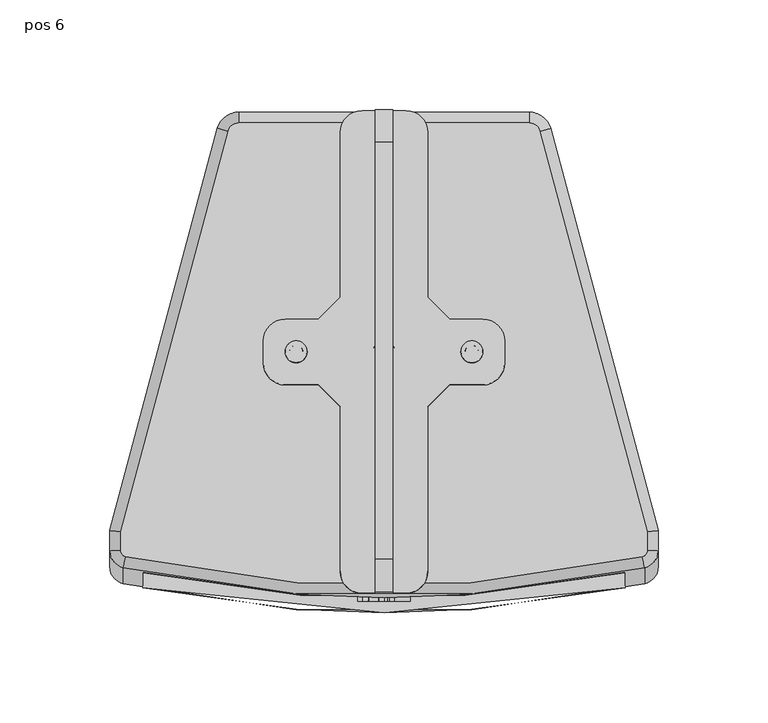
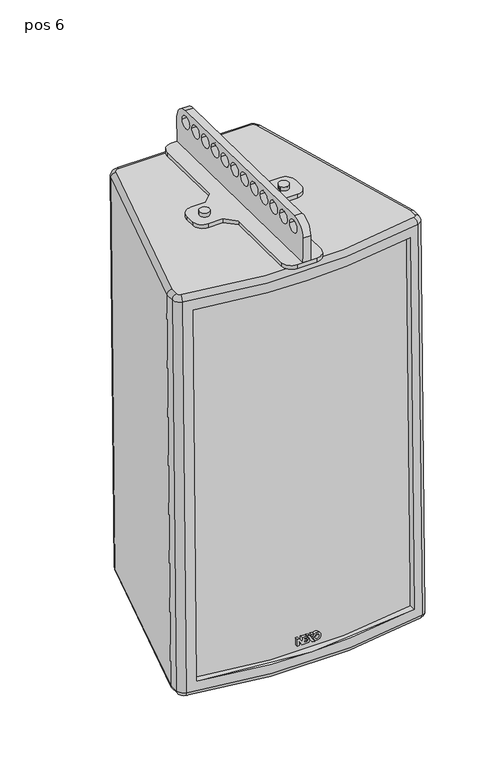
"""IFC4 building model written with IfcOpenShell, lengths in millimetres: proxy geometry, ePS8-WM280-BUMP-WVM : pos 6."""

from ifc_helpers import new_model, si_unit, point, frame, frame_2d, origin, place, context, project, spatial, polyline, circle_curve, ellipse_curve, trimmed, segment, composite_curve, outline, extrude, source, transform, mapped, element, save
from ifc_brep_helpers import plane_surface, cylinder_surface, revolved_surface, advanced_brep


def pos_6_c2b1cb6c(model_context):
    return source(origin(), model_context, "Body", "SolidModel", [
        extrude(outline(composite_curve([segment(trimmed(circle_curve(frame_2d((0.0, -5.0)), 5.0), [point((0.0, -10.0))], [point((0.0, 0.0))], False, "CARTESIAN"), True, "CONTINUOUS"), segment(trimmed(circle_curve(frame_2d((0.0, -5.0)), 5.0), [point((0.0, 0.0))], [point((0.0, -10.0))], False, "CARTESIAN"), True, "CONTINUOUS")], self_intersect=False)), frame((-35.0511607, -271.4814193, -98.0995849), z_axis=(0.0, 0.017452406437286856, 0.9998476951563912), x_axis=(0.0, -0.9998476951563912, 0.017452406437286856)), (0.0, 0.0, 1.0), 4.0),
        extrude(outline(composite_curve([segment(trimmed(circle_curve(frame_2d((0.0, 75.1023214)), 5.0), [point((0.0, 80.1023214))], [point((0.0, 70.1023214))], False, "CARTESIAN"), True, "CONTINUOUS"), segment(trimmed(circle_curve(frame_2d((0.0, 75.1023214)), 5.0), [point((0.0, 70.1023214))], [point((0.0, 80.1023214))], False, "CARTESIAN"), True, "CONTINUOUS")], self_intersect=False)), frame((-35.0511607, -271.4814193, -98.0995849), z_axis=(0.0, 0.017452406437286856, 0.9998476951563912), x_axis=(0.0, -0.9998476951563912, 0.017452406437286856)), (0.0, 0.0, 1.0), 4.0),
        extrude(outline(composite_curve([segment(trimmed(circle_curve(frame_2d((-176.0421257, -73.7615234)), 15.0), [point((-175.7803396, -58.763808))], [point((-161.0444103, -74.0233095))], False, "CARTESIAN"), True, "CONTINUOUS"), segment(polyline([(-161.0444103, -74.0233095), (-161.4981729, -100.0193496), (-381.4646658, -96.1798202), (-381.0109032, -70.1837801)]), True, "CONTINUOUS"), segment(trimmed(circle_curve(frame_2d((-366.0131878, -70.4455662)), 15.0), [point((-381.0109032, -70.1837801))], [point((-365.7514017, -55.4478508))], False, "CARTESIAN"), True, "CONTINUOUS"), segment(polyline([(-365.7514017, -55.4478508), (-175.7803396, -58.763808)]), True, "CONTINUOUS")], self_intersect=False), holes=[composite_curve([segment(trimmed(circle_curve(frame_2d((-279.0, -68.9639301)), 6.5), [point((-285.49901, -68.8504894))], [point((-272.50099, -69.0773707))], True, "CARTESIAN"), True, "CONTINUOUS"), segment(trimmed(circle_curve(frame_2d((-279.0, -68.9639301)), 6.5), [point((-272.50099, -69.0773707))], [point((-285.49901, -68.8504894))], True, "CARTESIAN"), True, "CONTINUOUS")], self_intersect=False), composite_curve([segment(trimmed(circle_curve(frame_2d((-296.0755239, -68.6658757)), 6.5), [point((-302.5745339, -68.552435))], [point((-289.5765139, -68.7793163))], True, "CARTESIAN"), True, "CONTINUOUS"), segment(trimmed(circle_curve(frame_2d((-296.0755239, -68.6658757)), 6.5), [point((-289.5765139, -68.7793163))], [point((-302.5745339, -68.552435))], True, "CARTESIAN"), True, "CONTINUOUS")], self_intersect=False), composite_curve([segment(trimmed(circle_curve(frame_2d((-313.1510478, -68.3678213)), 6.5), [point((-319.6500579, -68.2543807))], [point((-306.6520378, -68.4812619))], True, "CARTESIAN"), True, "CONTINUOUS"), segment(trimmed(circle_curve(frame_2d((-313.1510478, -68.3678213)), 6.5), [point((-306.6520378, -68.4812619))], [point((-319.6500579, -68.2543807))], True, "CARTESIAN"), True, "CONTINUOUS")], self_intersect=False), composite_curve([segment(trimmed(circle_curve(frame_2d((-330.2265718, -68.0697669)), 6.5), [point((-336.7255818, -67.9563263))], [point((-323.7275617, -68.1832076))], True, "CARTESIAN"), True, "CONTINUOUS"), segment(trimmed(circle_curve(frame_2d((-330.2265718, -68.0697669)), 6.5), [point((-323.7275617, -68.1832076))], [point((-336.7255818, -67.9563263))], True, "CARTESIAN"), True, "CONTINUOUS")], self_intersect=False), composite_curve([segment(trimmed(circle_curve(frame_2d((-347.3020957, -67.7717125)), 6.5), [point((-353.8011057, -67.6582719))], [point((-340.8030857, -67.8851532))], True, "CARTESIAN"), True, "CONTINUOUS"), segment(trimmed(circle_curve(frame_2d((-347.3020957, -67.7717125)), 6.5), [point((-340.8030857, -67.8851532))], [point((-353.8011057, -67.6582719))], True, "CARTESIAN"), True, "CONTINUOUS")], self_intersect=False), composite_curve([segment(trimmed(circle_curve(frame_2d((-364.3776196, -67.4736582)), 6.5), [point((-370.8766296, -67.3602175))], [point((-357.8786096, -67.5870988))], True, "CARTESIAN"), True, "CONTINUOUS"), segment(trimmed(circle_curve(frame_2d((-364.3776196, -67.4736582)), 6.5), [point((-357.8786096, -67.5870988))], [point((-370.8766296, -67.3602175))], True, "CARTESIAN"), True, "CONTINUOUS")], self_intersect=False), composite_curve([segment(trimmed(circle_curve(frame_2d((-261.893847, -69.2625191)), 6.5), [point((-255.394837, -69.3759597))], [point((-268.392857, -69.1490784))], True, "CARTESIAN"), True, "CONTINUOUS"), segment(trimmed(circle_curve(frame_2d((-261.893847, -69.2625191)), 6.5), [point((-268.392857, -69.1490784))], [point((-255.394837, -69.3759597))], True, "CARTESIAN"), True, "CONTINUOUS")], self_intersect=False), composite_curve([segment(trimmed(circle_curve(frame_2d((-244.8183231, -69.5605735)), 6.5), [point((-238.3193131, -69.6740141))], [point((-251.3173331, -69.4471328))], True, "CARTESIAN"), True, "CONTINUOUS"), segment(trimmed(circle_curve(frame_2d((-244.8183231, -69.5605735)), 6.5), [point((-251.3173331, -69.4471328))], [point((-238.3193131, -69.6740141))], True, "CARTESIAN"), True, "CONTINUOUS")], self_intersect=False), composite_curve([segment(trimmed(circle_curve(frame_2d((-227.7427992, -69.8586278)), 6.5), [point((-221.2437892, -69.9720685))], [point((-234.2418092, -69.7451872))], True, "CARTESIAN"), True, "CONTINUOUS"), segment(trimmed(circle_curve(frame_2d((-227.7427992, -69.8586278)), 6.5), [point((-234.2418092, -69.7451872))], [point((-221.2437892, -69.9720685))], True, "CARTESIAN"), True, "CONTINUOUS")], self_intersect=False), composite_curve([segment(trimmed(circle_curve(frame_2d((-210.6672753, -70.1566822)), 6.5), [point((-204.1682652, -70.2701228))], [point((-217.1662853, -70.0432416))], True, "CARTESIAN"), True, "CONTINUOUS"), segment(trimmed(circle_curve(frame_2d((-210.6672753, -70.1566822)), 6.5), [point((-217.1662853, -70.0432416))], [point((-204.1682652, -70.2701228))], True, "CARTESIAN"), True, "CONTINUOUS")], self_intersect=False), composite_curve([segment(trimmed(circle_curve(frame_2d((-193.5917513, -70.4547366)), 6.5), [point((-187.0927413, -70.5681772))], [point((-200.0907614, -70.3412959))], True, "CARTESIAN"), True, "CONTINUOUS"), segment(trimmed(circle_curve(frame_2d((-193.5917513, -70.4547366)), 6.5), [point((-200.0907614, -70.3412959))], [point((-187.0927413, -70.5681772))], True, "CARTESIAN"), True, "CONTINUOUS")], self_intersect=False), composite_curve([segment(trimmed(circle_curve(frame_2d((-176.5162274, -70.752791)), 6.5), [point((-170.0172174, -70.8662316))], [point((-183.0152374, -70.6393503))], True, "CARTESIAN"), True, "CONTINUOUS"), segment(trimmed(circle_curve(frame_2d((-176.5162274, -70.752791)), 6.5), [point((-183.0152374, -70.6393503))], [point((-170.0172174, -70.8662316))], True, "CARTESIAN"), True, "CONTINUOUS")], self_intersect=False)]), frame((-4.0, 0.0, 0.0), z_axis=(1.0, 0.0, 0.0), x_axis=(0.0, 1.0, 0.0)), (0.0, 0.0, 1.0), 8.0),
        extrude(outline(composite_curve([segment(polyline([(1.6568542, 0.0), (54.6898628, 53.0330085)]), True, "CONTINUOUS"), segment(trimmed(circle_curve(frame_2d((61.7609306, 45.9619407)), 10.0), [point((54.6898628, 53.0330085))], [point((68.8319985, 53.0330086))], False, "CARTESIAN"), True, "CONTINUOUS"), segment(polyline([(68.8319985, 53.0330086), (82.9741341, 38.8908729)]), True, "CONTINUOUS"), segment(trimmed(circle_curve(frame_2d((75.9030662, 31.8198051)), 10.0), [point((82.9741341, 38.8908729))], [point((82.974134, 24.7487373))], False, "CARTESIAN"), True, "CONTINUOUS"), segment(polyline([(82.974134, 24.7487373), (29.9411255, -28.2842713), (29.9411255, -42.4264069), (40.5477272, -53.0330086)]), True, "CONTINUOUS"), segment(trimmed(circle_curve(frame_2d((33.4766594, -60.1040764)), 10.0), [point((40.5477272, -53.0330086))], [point((40.5477272, -67.1751443))], False, "CARTESIAN"), True, "CONTINUOUS"), segment(polyline([(40.5477272, -67.1751443), (33.4766594, -74.246212)]), True, "CONTINUOUS"), segment(trimmed(circle_curve(frame_2d((26.4055916, -67.1751442)), 10.0), [point((33.4766594, -74.246212))], [point((19.3345238, -74.2462121))], False, "CARTESIAN"), True, "CONTINUOUS"), segment(polyline([(19.3345238, -74.2462121), (8.7279221, -63.6396103), (-5.4142135, -63.6396103), (-58.4472222, -116.6726189)]), True, "CONTINUOUS"), segment(trimmed(circle_curve(frame_2d((-65.51829, -109.6015511)), 10.0), [point((-58.4472222, -116.6726189))], [point((-72.5893578, -116.6726189))], False, "CARTESIAN"), True, "CONTINUOUS"), segment(polyline([(-72.5893578, -116.6726189), (-86.7314934, -102.5304833)]), True, "CONTINUOUS"), segment(trimmed(circle_curve(frame_2d((-79.6604256, -95.4594155)), 10.0), [point((-86.7314934, -102.5304833))], [point((-86.7314934, -88.3883477))], False, "CARTESIAN"), True, "CONTINUOUS"), segment(polyline([(-86.7314934, -88.3883477), (-33.6984848, -35.3553391), (-33.6984848, -21.2132035), (-44.3050865, -10.6066018)]), True, "CONTINUOUS"), segment(trimmed(circle_curve(frame_2d((-37.2340187, -3.5355339)), 10.0), [point((-44.3050865, -10.6066018))], [point((-44.3050865, 3.5355339))], False, "CARTESIAN"), True, "CONTINUOUS"), segment(polyline([(-44.3050865, 3.5355339), (-37.2340187, 10.6066017)]), True, "CONTINUOUS"), segment(trimmed(circle_curve(frame_2d((-30.1629509, 3.5355339)), 10.0), [point((-37.2340187, 10.6066017))], [point((-23.0918831, 10.6066017))], False, "CARTESIAN"), True, "CONTINUOUS"), segment(polyline([(-23.0918831, 10.6066017), (-12.4852813, 0.0), (1.6568542, 0.0)]), True, "CONTINUOUS")], self_intersect=False), holes=[composite_curve([segment(trimmed(circle_curve(frame_2d((-30.1702095, -3.5282754)), 3.0), [point((-32.2915298, -1.4069551))], [point((-28.0488891, -5.6495958))], True, "CARTESIAN"), True, "CONTINUOUS"), segment(trimmed(circle_curve(frame_2d((-30.1702095, -3.5282754)), 3.0), [point((-28.0488891, -5.6495958))], [point((-32.2915298, -1.4069551))], True, "CARTESIAN"), True, "CONTINUOUS")], self_intersect=False), composite_curve([segment(trimmed(circle_curve(frame_2d((26.4128501, -60.111335)), 3.0), [point((28.5341704, -62.2326553))], [point((24.2915297, -57.9900146))], True, "CARTESIAN"), True, "CONTINUOUS"), segment(trimmed(circle_curve(frame_2d((26.4128501, -60.111335)), 3.0), [point((24.2915297, -57.9900146))], [point((28.5341704, -62.2326553))], True, "CARTESIAN"), True, "CONTINUOUS")], self_intersect=False)]), frame((-21.1715729, -247.726431, -102.5148391), z_axis=(0.0, 0.017452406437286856, 0.9998476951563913), x_axis=(0.7071067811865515, 0.7069990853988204, -0.012340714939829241)), (0.0, 0.0, 1.0), 4.0),
        extrude(outline(composite_curve([segment(trimmed(circle_curve(frame_2d((-3.670838, -20.0113735)), 3.9406238), [point((-3.670838, -16.0707497))], [point((-3.670838, -23.9519974))], False, "CARTESIAN"), True, "CONTINUOUS"), segment(trimmed(circle_curve(frame_2d((-3.670838, -20.0113735)), 3.9406238), [point((-3.670838, -23.9519974))], [point((-3.670838, -16.0707497))], False, "CARTESIAN"), True, "CONTINUOUS")], self_intersect=False), holes=[composite_curve([segment(trimmed(circle_curve(frame_2d((-3.670838, -20.0113735)), 2.0681078), [point((-3.670838, -17.9432657))], [point((-3.670838, -22.0794813))], True, "CARTESIAN"), True, "CONTINUOUS"), segment(trimmed(circle_curve(frame_2d((-3.670838, -20.0113735)), 2.0681078), [point((-3.670838, -22.0794813))], [point((-3.670838, -17.9432657))], True, "CARTESIAN"), True, "CONTINUOUS")], self_intersect=False)]), frame((-11.9363528, -381.904018, -493.7917637), z_axis=(0.0, -0.9998476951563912, 0.017452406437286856), x_axis=(0.0, 0.017452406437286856, 0.9998476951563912)), (0.0, 0.0, 1.0), 3.0),
        extrude(outline(polyline([(0.0, 0.0), (0.0, -2.0264794), (-4.4509076, -4.9657455), (-0.0008516, -4.9754371), (-0.0008516, -9.2438132), (-0.8035818, -9.7774719), (-1.6035818, -9.7774719), (-1.6035818, -7.3703972), (-2.8200851, -7.3703972), (-2.8200851, -9.6535101), (-4.4228153, -9.6535101), (-4.4228153, -7.3703972), (-5.6771027, -7.3703972), (-5.6771027, -10.4040265), (-3.8052626, -11.7735691), (-5.404796, -12.8369462), (-7.2797671, -11.5183739), (-7.2797671, -4.6674642), (-3.1144368, -1.8923673), (-7.2797671, -1.8923673), (-7.2797671, 0.0), (0.0, 0.0)])), frame((-11.9363528, -381.904018, -493.7917637), z_axis=(0.0, -0.9998476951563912, 0.017452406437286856), x_axis=(0.0, 0.017452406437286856, 0.9998476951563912)), (0.0, 0.0, 1.0), 3.0),
        extrude(outline(polyline([(0.0, -9.8851283), (0.0, -12.078331), (-8.2409469, -17.5569502), (-8.2409469, -15.3637475), (0.0, -9.8851283)])), frame((-11.9363528, -381.904018, -493.7917637), z_axis=(0.0, -0.9998476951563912, 0.017452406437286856), x_axis=(0.0, 0.017452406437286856, 0.9998476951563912)), (0.0, 0.0, 1.0), 3.0),
        extrude(outline(polyline([(0.0, -16.6257623), (-2.8988509, -14.6354032), (-1.267957, -13.5511775), (0.0, -14.2989718), (0.0, -16.6257623)])), frame((-11.9363528, -381.904018, -493.7917637), z_axis=(0.0, -0.9998476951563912, 0.017452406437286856), x_axis=(0.0, 0.017452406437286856, 0.9998476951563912)), (0.0, 0.0, 1.0), 3.0),
        extrude(outline(composite_curve([segment(trimmed(circle_curve(frame_2d((0.0, -55.0)), 11.4515227), [point((0.0, -43.5484773))], [point((0.0, -66.4515227))], False, "CARTESIAN"), True, "CONTINUOUS"), segment(trimmed(circle_curve(frame_2d((0.0, -55.0)), 11.4515227), [point((0.0, -66.4515227))], [point((0.0, -43.5484773))], False, "CARTESIAN"), True, "CONTINUOUS")], self_intersect=False), holes=[composite_curve([segment(trimmed(circle_curve(frame_2d((0.0, -55.0)), 5.0), [point((0.0, -50.0))], [point((0.0, -60.0))], True, "CARTESIAN"), True, "CONTINUOUS"), segment(trimmed(circle_curve(frame_2d((0.0, -55.0)), 5.0), [point((0.0, -60.0))], [point((0.0, -50.0))], True, "CARTESIAN"), True, "CONTINUOUS")], self_intersect=False)]), frame((25.0, -162.7967229, -489.5560151), z_axis=(0.0, -0.9998476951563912, 0.017452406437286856), x_axis=(0.0, -0.017452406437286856, -0.9998476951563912)), (0.0, 0.0, 1.0), 3.0),
        extrude(outline(composite_curve([segment(trimmed(circle_curve(frame_2d((0.0, 5.0)), 11.4515227), [point((0.0, 16.4515227))], [point((0.0, -6.4515227))], False, "CARTESIAN"), True, "CONTINUOUS"), segment(trimmed(circle_curve(frame_2d((0.0, 5.0)), 11.4515227), [point((0.0, -6.4515227))], [point((0.0, 16.4515227))], False, "CARTESIAN"), True, "CONTINUOUS")], self_intersect=False), holes=[composite_curve([segment(trimmed(circle_curve(frame_2d((0.0, 5.0)), 5.0), [point((0.0, 10.0))], [point((0.0, 0.0))], True, "CARTESIAN"), True, "CONTINUOUS"), segment(trimmed(circle_curve(frame_2d((0.0, 5.0)), 5.0), [point((0.0, 0.0))], [point((0.0, 10.0))], True, "CARTESIAN"), True, "CONTINUOUS")], self_intersect=False)]), frame((25.0, -162.7967229, -489.5560151), z_axis=(0.0, -0.9998476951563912, 0.017452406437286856), x_axis=(0.0, -0.017452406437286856, -0.9998476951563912)), (0.0, 0.0, 1.0), 3.0),
        extrude(outline(composite_curve([segment(trimmed(circle_curve(frame_2d((0.0, -5.0)), 5.0), [point((4.9999999, -5.0))], [point((0.0, -10.0))], False, "CARTESIAN"), True, "CONTINUOUS"), segment(polyline([(0.0, -10.0), (-28.0, -10.0)]), True, "CONTINUOUS"), segment(trimmed(circle_curve(frame_2d((-28.0, -5.0)), 5.0), [point((-28.0, -10.0))], [point((-33.0000001, -5.0))], False, "CARTESIAN"), True, "CONTINUOUS"), segment(polyline([(-33.0000001, -5.0), (-33.0000001, 101.0)]), True, "CONTINUOUS"), segment(trimmed(circle_curve(frame_2d((-28.0, 101.0)), 5.0), [point((-33.0000001, 101.0))], [point((-28.0, 106.0))], False, "CARTESIAN"), True, "CONTINUOUS"), segment(polyline([(-28.0, 106.0), (0.0, 106.0)]), True, "CONTINUOUS"), segment(trimmed(circle_curve(frame_2d((0.0, 101.0)), 5.0), [point((0.0, 106.0))], [point((4.9999999, 101.0))], False, "CARTESIAN"), True, "CONTINUOUS"), segment(polyline([(4.9999999, 101.0), (4.9999999, -5.0)]), True, "CONTINUOUS")], self_intersect=False)), frame((48.0, -165.5519323, -475.5057901), z_axis=(0.0, -0.9998476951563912, 0.017452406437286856), x_axis=(0.0, 0.017452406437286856, 0.9998476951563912)), (0.0, 0.0, 1.0), 3.0),
        advanced_brep(
        [(110.0, -371.8619436, -115.3503306), (110.0, -365.0125854, -115.4698865), (110.0, -371.8713811, -508.4100307), (110.0, -378.7207393, -508.2904747), (-71.0680005, -170.7724852, -103.8580752), (-120.0, -353.36138, -100.6709742), (-120.0, -361.8669468, -100.5225089), (-117.6705435, -364.7906033, -100.4714763), (117.6705435, -364.7906033, -100.4714763), (120.0, -361.8669468, -100.5225089), (120.0, -353.36138, -100.6709742), (71.0680005, -170.7724852, -103.8580752), (66.2383714, -167.0671448, -103.9227521), (-66.2383714, -167.0671448, -103.9227521), (0.0, -276.5504674, -102.0117136), (0.0, -266.5519905, -102.1862377), (-40.0, -276.5504674, -102.0117136), (-40.0, -266.5519905, -102.1862377), (40.0, -276.5504674, -102.0117136), (40.0, -266.5519905, -102.1862377), (-120.0, -360.7437479, -523.6065492), (-71.0680005, -178.1548531, -526.7936502), (-66.2383714, -174.4495127, -526.8583272), (66.2383714, -174.4495127, -526.8583272), (71.0680005, -178.1548531, -526.7936502), (120.0, -360.7437479, -523.6065492), (120.0, -369.2493147, -523.458084), (117.6705435, -372.1729712, -523.4070514), (-117.6705435, -372.1729712, -523.4070514), (-120.0, -369.2493147, -523.458084), (0.0, -273.9343584, -525.1218128), (0.0, -283.9328354, -524.9472887), (-40.0, -273.9343584, -525.1218128), (-40.0, -283.9328354, -524.9472887), (40.0, -273.9343584, -525.1218128), (40.0, -283.9328354, -524.9472887), (-66.2383714, -162.1551684, -109.0092526), (66.2383714, -162.1551684, -109.0092526), (66.2383714, -169.3630122, -521.9463507), (-66.2383714, -169.3630122, -521.9463507), (-47.3432823, -165.4099671, -295.4765466), (-58.6566026, -165.4099671, -295.4765466), (22.6567177, -165.4099671, -295.4765466), (11.3433974, -165.4099671, -295.4765466), (22.6567177, -164.1882987, -225.4872079), (11.3433974, -164.1882987, -225.4872079), (118.788116, -369.7506261, -105.3856605), (-118.788116, -369.7506261, -105.3856605), (-118.788116, -376.9584699, -518.3227584), (118.788116, -376.9584699, -518.3227586), (-110.0, -371.8619436, -115.3503306), (-110.0, -378.7207393, -508.2904747), (125.0, -361.9542089, -105.5217474), (125.0, -369.1620527, -518.4588455), (125.0, -352.7904798, -105.6817009), (125.0, -359.9983236, -518.618799), (75.8976296, -169.5658491, -108.8798987), (75.8976296, -176.7736929, -521.8169968), (-75.8976296, -169.5658491, -108.8798987), (-75.8976296, -176.7736929, -521.8169968), (-125.0, -352.7904798, -105.6817009), (-125.0, -359.9983236, -518.618799), (-125.0, -361.9542089, -105.5217474), (-125.0, -369.1620527, -518.4588455), (0.0, -266.6043477, -105.1857808), (0.0, -276.6028247, -105.0112567), (-40.0, -266.6043477, -105.1857808), (-40.0, -276.6028247, -105.0112567), (40.0, -266.6043477, -105.1857808), (40.0, -276.6028247, -105.0112567), (-110.0, -365.1222363, -115.4679726), (-110.0, -371.981032, -508.4081168), (0.0, -273.8820012, -522.1222697), (0.0, -283.8804781, -521.9477456), (-40.0, -273.8820012, -522.1222697), (-40.0, -283.8804781, -521.9477456), (40.0, -273.8820012, -522.1222697), (40.0, -283.8804781, -521.9477456), (-47.3432823, -168.4095102, -295.4241894), (-58.6566026, -168.4095102, -295.4241894), (22.6567177, -168.4095102, -295.4241894), (11.3433974, -168.4095102, -295.4241894), (22.6567177, -167.1878417, -225.4348507), (11.3433974, -167.1878417, -225.4348507)],
        [
            (0, 1),
            (1, 2),
            (2, 3),
            (3, 0),
            (4, 5),
            (5, 6),
            (6, 7, circle_curve(frame((-117.0, -361.8669468, -100.5225089), z_axis=(0.0, 0.017452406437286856, 0.9998476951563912), x_axis=(-0.22351449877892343, -0.9745521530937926, 0.017010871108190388)), 3.0)),
            (7, 8, circle_curve(frame((0.0, 148.2682012, -109.4269511), z_axis=(0.0, 0.017452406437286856, 0.9998476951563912), x_axis=(0.22351449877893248, -0.9745521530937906, 0.01701087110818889)), 526.4559755)),
            (8, 9, circle_curve(frame((117.0, -361.8669468, -100.5225089), z_axis=(0.0, 0.017452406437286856, 0.9998476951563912), x_axis=(1.0, 0.0, 0.0)), 3.0)),
            (9, 10),
            (10, 11),
            (11, 12, circle_curve(frame((66.2383714, -172.0663833, -103.8354901), z_axis=(0.0, 0.017452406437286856, 0.9998476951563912), x_axis=(0.0, 0.9998476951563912, -0.017452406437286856)), 5.0)),
            (12, 13),
            (13, 4, circle_curve(frame((-66.2383714, -172.0663833, -103.8354901), z_axis=(0.0, 0.017452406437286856, 0.9998476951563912), x_axis=(-0.9659258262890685, 0.2587796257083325, -0.004517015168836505)), 5.0)),
            (14, 15, circle_curve(frame((0.0, -271.551229, -102.0989757), z_axis=(0.0, -0.017452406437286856, -0.9998476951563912), x_axis=(0.0, -0.9998476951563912, 0.017452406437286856)), 5.0)),
            (15, 14, circle_curve(frame((0.0, -271.551229, -102.0989757), z_axis=(0.0, -0.017452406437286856, -0.9998476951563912), x_axis=(0.0, -0.9998476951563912, 0.017452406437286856)), 5.0)),
            (16, 17, circle_curve(frame((-40.0, -271.551229, -102.0989757), z_axis=(0.0, -0.017452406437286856, -0.9998476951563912), x_axis=(0.0, -0.9998476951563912, 0.017452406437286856)), 5.0)),
            (17, 16, circle_curve(frame((-40.0, -271.551229, -102.0989757), z_axis=(0.0, -0.017452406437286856, -0.9998476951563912), x_axis=(0.0, -0.9998476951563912, 0.017452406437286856)), 5.0)),
            (18, 19, circle_curve(frame((40.0, -271.551229, -102.0989757), z_axis=(0.0, -0.017452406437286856, -0.9998476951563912), x_axis=(0.0, -0.9998476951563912, 0.017452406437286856)), 5.0)),
            (19, 18, circle_curve(frame((40.0, -271.551229, -102.0989757), z_axis=(0.0, -0.017452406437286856, -0.9998476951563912), x_axis=(0.0, -0.9998476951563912, 0.017452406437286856)), 5.0)),
            (20, 21),
            (21, 22, circle_curve(frame((-66.2383714, -179.4487512, -526.7710652), z_axis=(0.0, -0.017452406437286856, -0.9998476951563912), x_axis=(-0.9659258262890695, 0.2587796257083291, -0.004517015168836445)), 5.0)),
            (22, 23),
            (23, 24, circle_curve(frame((66.2383714, -179.4487512, -526.7710652), z_axis=(0.0, -0.017452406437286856, -0.9998476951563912), x_axis=(0.0, 0.9998476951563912, -0.017452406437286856)), 5.0)),
            (24, 25),
            (25, 26),
            (26, 27, circle_curve(frame((117.0, -369.2493147, -523.458084), z_axis=(0.0, -0.017452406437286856, -0.9998476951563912), x_axis=(1.0, 0.0, 0.0)), 3.0)),
            (27, 28, circle_curve(frame((0.0, 140.8858332, -532.3625261), z_axis=(0.0, -0.017452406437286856, -0.9998476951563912), x_axis=(0.22351449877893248, -0.9745521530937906, 0.01701087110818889)), 526.4559755)),
            (28, 29, circle_curve(frame((-117.0, -369.2493147, -523.458084), z_axis=(0.0, -0.017452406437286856, -0.9998476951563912), x_axis=(-0.22351449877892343, -0.9745521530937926, 0.017010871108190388)), 3.0)),
            (29, 20),
            (30, 31, circle_curve(frame((0.0, -278.9335969, -525.0345507), z_axis=(0.0, 0.017452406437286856, 0.9998476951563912), x_axis=(0.0, -0.9998476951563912, 0.017452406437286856)), 5.0)),
            (31, 30, circle_curve(frame((0.0, -278.9335969, -525.0345507), z_axis=(0.0, 0.017452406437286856, 0.9998476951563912), x_axis=(0.0, -0.9998476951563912, 0.017452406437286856)), 5.0)),
            (32, 33, circle_curve(frame((-40.0, -278.9335969, -525.0345507), z_axis=(0.0, 0.017452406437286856, 0.9998476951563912), x_axis=(0.0, -0.9998476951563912, 0.017452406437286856)), 5.0)),
            (33, 32, circle_curve(frame((-40.0, -278.9335969, -525.0345507), z_axis=(0.0, 0.017452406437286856, 0.9998476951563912), x_axis=(0.0, -0.9998476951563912, 0.017452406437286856)), 5.0)),
            (34, 35, circle_curve(frame((40.0, -278.9335969, -525.0345507), z_axis=(0.0, 0.017452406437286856, 0.9998476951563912), x_axis=(0.0, -0.9998476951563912, 0.017452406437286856)), 5.0)),
            (35, 34, circle_curve(frame((40.0, -278.9335969, -525.0345507), z_axis=(0.0, 0.017452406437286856, 0.9998476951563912), x_axis=(0.0, -0.9998476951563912, 0.017452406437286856)), 5.0)),
            (36, 37),
            (37, 38),
            (38, 39),
            (39, 36),
            (40, 41, circle_curve(frame((-52.9999424, -165.4099671, -295.4765466), z_axis=(0.0, -0.9998476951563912, 0.017452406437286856), x_axis=(-1.0, 0.0, 0.0)), 5.6566602)),
            (41, 40, circle_curve(frame((-52.9999424, -165.4099671, -295.4765466), z_axis=(0.0, -0.9998476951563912, 0.017452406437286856), x_axis=(-1.0, 0.0, 0.0)), 5.6566602)),
            (42, 43, circle_curve(frame((17.0000576, -165.4099671, -295.4765466), z_axis=(0.0, -0.9998476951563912, 0.017452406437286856), x_axis=(-1.0, 0.0, 0.0)), 5.6566602)),
            (43, 42, circle_curve(frame((17.0000576, -165.4099671, -295.4765466), z_axis=(0.0, -0.9998476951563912, 0.017452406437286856), x_axis=(-1.0, 0.0, 0.0)), 5.6566602)),
            (44, 45, circle_curve(frame((17.0000576, -164.1882987, -225.4872079), z_axis=(0.0, -0.9998476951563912, 0.017452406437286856), x_axis=(-1.0, 0.0, 0.0)), 5.6566602)),
            (45, 44, circle_curve(frame((17.0000576, -164.1882987, -225.4872079), z_axis=(0.0, -0.9998476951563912, 0.017452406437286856), x_axis=(-1.0, 0.0, 0.0)), 5.6566602)),
            (46, 47, circle_curve(frame((0.0, 148.1809391, -114.4261896), z_axis=(0.0, -0.017452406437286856, -0.9998476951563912), x_axis=(1.0, 0.0, 0.0)), 531.4559755)),
            (47, 48),
            (48, 49, circle_curve(frame((0.0, 140.9730953, -527.3632877), z_axis=(0.0, 0.017452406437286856, 0.9998476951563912), x_axis=(1.0, 0.0, 0.0)), 531.4559755)),
            (49, 46),
            (50, 0, circle_curve(frame((0.0, 148.0064151, -124.4246665), z_axis=(0.0, 0.017452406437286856, 0.9998476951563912), x_axis=(1.0, 0.0, 0.0)), 531.4559755)),
            (3, 51, circle_curve(frame((0.0, 141.1476193, -517.3648107), z_axis=(0.0, -0.017452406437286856, -0.9998476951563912), x_axis=(1.0, 0.0, 0.0)), 531.4559755)),
            (51, 50),
            (52, 46, circle_curve(frame((117.0, -361.9542089, -105.5217474), z_axis=(0.0, -0.017452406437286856, -0.9998476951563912), x_axis=(1.0, 0.0, 0.0)), 8.0)),
            (49, 53, circle_curve(frame((117.0, -369.1620527, -518.4588455), z_axis=(0.0, 0.017452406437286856, 0.9998476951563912), x_axis=(1.0, 0.0, 0.0)), 8.0)),
            (53, 52),
            (54, 52),
            (53, 55),
            (55, 54),
            (56, 54),
            (55, 57),
            (57, 56),
            (37, 56, circle_curve(frame((66.2383714, -172.1536453, -108.8347286), z_axis=(0.0, -0.017452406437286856, -0.9998476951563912), x_axis=(1.0, 0.0, 0.0)), 10.0)),
            (57, 38, circle_curve(frame((66.2383714, -179.3614892, -521.7718267), z_axis=(0.0, 0.017452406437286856, 0.9998476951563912), x_axis=(1.0, 0.0, 0.0)), 10.0)),
            (58, 36, circle_curve(frame((-66.2383714, -172.1536453, -108.8347286), z_axis=(0.0, -0.017452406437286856, -0.9998476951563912), x_axis=(1.0, 0.0, 0.0)), 10.0)),
            (39, 59, circle_curve(frame((-66.2383714, -179.3614892, -521.7718267), z_axis=(0.0, 0.017452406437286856, 0.9998476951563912), x_axis=(1.0, 0.0, 0.0)), 10.0)),
            (59, 58),
            (60, 58),
            (59, 61),
            (61, 60),
            (62, 60),
            (61, 63),
            (63, 62),
            (47, 62, circle_curve(frame((-117.0, -361.9542089, -105.5217474), z_axis=(0.0, -0.017452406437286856, -0.9998476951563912), x_axis=(1.0, 0.0, 0.0)), 8.0)),
            (63, 48, circle_curve(frame((-117.0, -369.1620527, -518.4588455), z_axis=(0.0, 0.017452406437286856, 0.9998476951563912), x_axis=(1.0, 0.0, 0.0)), 8.0)),
            (64, 65, circle_curve(frame((0.0, -271.6035862, -105.0985188), z_axis=(0.0, 0.017452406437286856, 0.9998476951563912), x_axis=(0.0, -0.9998476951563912, 0.017452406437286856)), 5.0)),
            (65, 64, circle_curve(frame((0.0, -271.6035862, -105.0985188), z_axis=(0.0, 0.017452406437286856, 0.9998476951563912), x_axis=(0.0, -0.9998476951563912, 0.017452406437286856)), 5.0)),
            (66, 67, circle_curve(frame((-40.0, -271.6035862, -105.0985188), z_axis=(0.0, 0.017452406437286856, 0.9998476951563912), x_axis=(0.0, -0.9998476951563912, 0.017452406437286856)), 5.0)),
            (67, 66, circle_curve(frame((-40.0, -271.6035862, -105.0985188), z_axis=(0.0, 0.017452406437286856, 0.9998476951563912), x_axis=(0.0, -0.9998476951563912, 0.017452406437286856)), 5.0)),
            (68, 69, circle_curve(frame((40.0, -271.6035862, -105.0985188), z_axis=(0.0, 0.017452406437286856, 0.9998476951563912), x_axis=(0.0, -0.9998476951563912, 0.017452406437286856)), 5.0)),
            (69, 68, circle_curve(frame((40.0, -271.6035862, -105.0985188), z_axis=(0.0, 0.017452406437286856, 0.9998476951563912), x_axis=(0.0, -0.9998476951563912, 0.017452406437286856)), 5.0)),
            (64, 15),
            (14, 65),
            (66, 17),
            (16, 67),
            (68, 19),
            (18, 69),
            (50, 70),
            (70, 1, circle_curve(frame((-0.2540909, 144.5767104, -124.3648008), z_axis=(0.0, 0.017452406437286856, 0.9998476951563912), x_axis=(1.0, 0.0, 0.0)), 521.4559755)),
            (2, 71, circle_curve(frame((-0.2540909, 137.7179147, -517.304945), z_axis=(0.0, -0.017452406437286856, -0.9998476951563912), x_axis=(1.0, 0.0, 0.0)), 521.4559755)),
            (71, 51),
            (70, 71),
            (4, 58, circle_curve(frame((-71.0680005, -170.8597472, -108.8573137), z_axis=(-0.2588190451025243, -0.9657787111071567, 0.01685773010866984), x_axis=(-0.9659258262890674, 0.258779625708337, -0.004517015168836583)), 5.0)),
            (60, 5, ellipse_curve(frame((-120.0, -353.448642, -105.6702126), z_axis=(0.13052619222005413, 0.9912938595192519, -0.017303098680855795), x_axis=(0.9914448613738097, -0.13050631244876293, 0.0022779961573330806)), 5.0431448, 5.0)),
            (13, 36, circle_curve(frame((-66.2383714, -167.1544069, -108.9219906), z_axis=(-1.0, 0.0, 0.0), x_axis=(0.0, 0.9998476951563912, -0.017452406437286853)), 5.0)),
            (12, 37, circle_curve(frame((66.2383714, -167.1544069, -108.9219906), z_axis=(-1.0, 0.0, 0.0), x_axis=(0.0, 0.9998476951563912, -0.017452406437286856)), 5.0)),
            (11, 56, circle_curve(frame((71.0680005, -170.8597472, -108.8573137), z_axis=(-0.25881904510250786, 0.9657787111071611, -0.016857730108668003), x_axis=(0.9659258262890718, 0.25877962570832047, -0.004517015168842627)), 5.0)),
            (10, 54, ellipse_curve(frame((120.0, -353.448642, -105.6702126), z_axis=(-0.13052619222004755, 0.9912938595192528, -0.01730309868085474), x_axis=(0.9914448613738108, 0.13050631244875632, -0.002277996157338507)), 5.0431448, 5.0)),
            (62, 6, circle_curve(frame((-120.0, -361.9542089, -105.5217474), z_axis=(0.0, 0.9998476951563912, -0.01745240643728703), x_axis=(-1.0, 0.0, 0.0)), 5.0)),
            (9, 52, circle_curve(frame((120.0, -361.9542089, -105.5217474), z_axis=(0.0, 0.9998476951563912, -0.017452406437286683), x_axis=(1.0, 0.0, 0.0)), 5.0)),
            (8, 46, circle_curve(frame((117.6705435, -364.8778653, -105.4707148), z_axis=(0.9747006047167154, 0.2234804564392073, -0.003900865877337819), x_axis=(0.22351449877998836, -0.9745521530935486, 0.01701087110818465)), 5.0)),
            (7, 47, circle_curve(frame((-117.6705435, -364.8778653, -105.4707148), z_axis=(0.9747006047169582, -0.22348045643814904, 0.003900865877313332), x_axis=(-0.22351449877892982, -0.9745521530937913, 0.017010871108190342)), 5.0)),
            (59, 21, circle_curve(frame((-71.0680005, -178.0675911, -521.7944118), z_axis=(-0.25881904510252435, -0.9657787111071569, 0.01685773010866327), x_axis=(-0.9659258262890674, 0.25877962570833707, -0.0045170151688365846)), 5.0)),
            (20, 61, ellipse_curve(frame((-120.0, -360.6564859, -518.6073107), z_axis=(0.13052619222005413, 0.9912938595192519, -0.017303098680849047), x_axis=(0.9914448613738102, -0.13050631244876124, 0.002277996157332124)), 5.0431448, 5.0)),
            (39, 22, circle_curve(frame((-66.2383714, -174.3622507, -521.8590887), z_axis=(-1.0, 0.0, 0.0), x_axis=(0.0, 0.9998476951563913, -0.017452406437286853)), 5.0)),
            (38, 23, circle_curve(frame((66.2383714, -174.3622507, -521.8590887), z_axis=(-1.0, 0.0, 0.0), x_axis=(0.0, 0.9998476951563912, -0.017452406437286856)), 5.0)),
            (57, 24, circle_curve(frame((71.0680005, -178.0675911, -521.7944118), z_axis=(-0.2588190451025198, 0.9657787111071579, -0.01685773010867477), x_axis=(0.9659258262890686, 0.2587796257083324, -0.004517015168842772)), 5.0)),
            (55, 25, ellipse_curve(frame((120.0, -360.6564859, -518.6073107), z_axis=(-0.13052619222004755, 0.9912938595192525, -0.017303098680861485), x_axis=(0.9914448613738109, 0.13050631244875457, -0.0022779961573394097)), 5.0431448, 5.0)),
            (29, 63, circle_curve(frame((-120.0, -369.1620527, -518.4588455), z_axis=(0.0, 0.9998476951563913, -0.017452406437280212), x_axis=(-1.0, 0.0, 0.0)), 5.0)),
            (53, 26, circle_curve(frame((120.0, -369.1620527, -518.4588455), z_axis=(0.0, 0.999847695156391, -0.0174524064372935), x_axis=(1.0, 0.0, 0.0)), 5.0)),
            (49, 27, circle_curve(frame((117.6705435, -372.0857092, -518.4078129), z_axis=(0.9747006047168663, 0.22348045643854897, -0.003900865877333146), x_axis=(0.22351449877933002, -0.9745521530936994, 0.017010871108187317)), 5.0)),
            (48, 28, circle_curve(frame((-117.6705435, -372.0857092, -518.4078129), z_axis=(0.9747006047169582, -0.22348045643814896, 0.0039008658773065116), x_axis=(-0.22351449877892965, -0.9745521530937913, 0.017010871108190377)), 5.0)),
            (72, 73, circle_curve(frame((0.0, -278.8812397, -522.0350076), z_axis=(0.0, -0.017452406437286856, -0.9998476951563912), x_axis=(0.0, -0.9998476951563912, 0.017452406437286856)), 5.0)),
            (73, 72, circle_curve(frame((0.0, -278.8812397, -522.0350076), z_axis=(0.0, -0.017452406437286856, -0.9998476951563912), x_axis=(0.0, -0.9998476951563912, 0.017452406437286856)), 5.0)),
            (74, 75, circle_curve(frame((-40.0, -278.8812397, -522.0350076), z_axis=(0.0, -0.017452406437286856, -0.9998476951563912), x_axis=(0.0, -0.9998476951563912, 0.017452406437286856)), 5.0)),
            (75, 74, circle_curve(frame((-40.0, -278.8812397, -522.0350076), z_axis=(0.0, -0.017452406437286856, -0.9998476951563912), x_axis=(0.0, -0.9998476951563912, 0.017452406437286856)), 5.0)),
            (76, 77, circle_curve(frame((40.0, -278.8812397, -522.0350076), z_axis=(0.0, -0.017452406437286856, -0.9998476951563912), x_axis=(0.0, -0.9998476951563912, 0.017452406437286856)), 5.0)),
            (77, 76, circle_curve(frame((40.0, -278.8812397, -522.0350076), z_axis=(0.0, -0.017452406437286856, -0.9998476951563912), x_axis=(0.0, -0.9998476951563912, 0.017452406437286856)), 5.0)),
            (73, 31),
            (30, 72),
            (75, 33),
            (32, 74),
            (77, 35),
            (34, 76),
            (78, 79, circle_curve(frame((-52.9999424, -168.4095102, -295.4241894), z_axis=(0.0, 0.9998476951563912, -0.017452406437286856), x_axis=(-1.0, 0.0, 0.0)), 5.6566602)),
            (79, 78, circle_curve(frame((-52.9999424, -168.4095102, -295.4241894), z_axis=(0.0, 0.9998476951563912, -0.017452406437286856), x_axis=(-1.0, 0.0, 0.0)), 5.6566602)),
            (80, 81, circle_curve(frame((17.0000576, -168.4095102, -295.4241894), z_axis=(0.0, 0.9998476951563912, -0.017452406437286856), x_axis=(-1.0, 0.0, 0.0)), 5.6566602)),
            (81, 80, circle_curve(frame((17.0000576, -168.4095102, -295.4241894), z_axis=(0.0, 0.9998476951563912, -0.017452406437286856), x_axis=(-1.0, 0.0, 0.0)), 5.6566602)),
            (82, 83, circle_curve(frame((17.0000576, -167.1878417, -225.4348507), z_axis=(0.0, 0.9998476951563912, -0.017452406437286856), x_axis=(-1.0, 0.0, 0.0)), 5.6566602)),
            (83, 82, circle_curve(frame((17.0000576, -167.1878417, -225.4348507), z_axis=(0.0, 0.9998476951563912, -0.017452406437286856), x_axis=(-1.0, 0.0, 0.0)), 5.6566602)),
            (79, 41),
            (40, 78),
            (81, 43),
            (42, 80),
            (83, 45),
            (44, 82),
        ],
        [
            plane_surface(frame((110.0, -371.8619436, -115.3503306), z_axis=(-1.0, 0.0, 0.0), x_axis=(0.0, -0.017452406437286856, -0.9998476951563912))),
            plane_surface(frame((125.0, -361.8669468, -100.5225089), z_axis=(0.0, 0.017452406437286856, 0.9998476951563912), x_axis=(0.0, 0.9998476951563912, -0.017452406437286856))),
            plane_surface(frame((125.0, -369.2493147, -523.458084), z_axis=(0.0, -0.017452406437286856, -0.9998476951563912), x_axis=(0.0, -0.9998476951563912, 0.017452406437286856))),
            plane_surface(frame((66.2383714, -162.0679063, -104.0100142), z_axis=(0.0, 0.9998476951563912, -0.017452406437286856), x_axis=(0.0, -0.017452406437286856, -0.9998476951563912))),
            cylinder_surface(frame((0.0, 140.8858332, -532.3625261), z_axis=(0.0, 0.017452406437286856, 0.9998476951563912), x_axis=(1.0, 0.0, 0.0)), 531.4559755),
            cylinder_surface(frame((117.0, -369.2493147, -523.458084), z_axis=(0.0, 0.017452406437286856, 0.9998476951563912), x_axis=(1.0, 0.0, 0.0)), 8.0),
            plane_surface(frame((125.0, -361.8669468, -100.5225089), z_axis=(1.0, 0.0, 0.0), x_axis=(0.0, -0.017452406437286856, -0.9998476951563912))),
            plane_surface(frame((125.0, -352.7032177, -100.6824624), z_axis=(0.9659258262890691, 0.2587796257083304, -0.004517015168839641), x_axis=(0.0, -0.017452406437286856, -0.9998476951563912))),
            cylinder_surface(frame((66.2383714, -179.4487512, -526.7710652), z_axis=(0.0, 0.017452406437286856, 0.9998476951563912), x_axis=(1.0, 0.0, 0.0)), 10.0),
            cylinder_surface(frame((-66.2383714, -179.4487512, -526.7710652), z_axis=(0.0, 0.017452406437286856, 0.9998476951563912), x_axis=(1.0, 0.0, 0.0)), 10.0),
            plane_surface(frame((-75.8976296, -169.478587, -103.8806603), z_axis=(-0.9659258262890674, 0.2587796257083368, -0.004517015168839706), x_axis=(0.0, -0.017452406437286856, -0.9998476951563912))),
            plane_surface(frame((-125.0, -352.7032177, -100.6824624), z_axis=(-1.0, 0.0, 0.0), x_axis=(0.0, -0.017452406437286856, -0.9998476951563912))),
            cylinder_surface(frame((-117.0, -369.2493147, -523.458084), z_axis=(0.0, 0.017452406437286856, 0.9998476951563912), x_axis=(1.0, 0.0, 0.0)), 8.0),
            plane_surface(frame((0.0, -276.6028247, -105.0112567), z_axis=(0.0, 0.017452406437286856, 0.9998476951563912), x_axis=(-1.0, 0.0, 0.0))),
            revolved_surface(polyline([(0.0, -276.550467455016, -102.0117135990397), (0.0, -276.60282467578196, -105.01125676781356)]), (0.0, -271.6035862, -105.0985188), (0.0, 0.017452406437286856, 0.9998476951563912)),
            revolved_surface(polyline([(-40.0, -276.55046747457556, -102.01171359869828), (-40.0, -276.6028246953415, -105.01125676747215)]), (-40.0, -271.551229, -102.0989757), (0.0, 0.017452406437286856, 0.9998476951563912)),
            revolved_surface(polyline([(40.0, -276.55046747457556, -102.01171359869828), (40.0, -276.6028246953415, -105.01125676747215)]), (40.0, -271.551229, -102.0989757), (0.0, 0.017452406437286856, 0.9998476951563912)),
            plane_surface(frame((110.0, -429.5489052, -114.3434009), z_axis=(0.0, -0.017452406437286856, -0.9998476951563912), x_axis=(0.0, 0.9998476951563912, -0.017452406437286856))),
            plane_surface(frame((110.0, -436.407701, -507.2835451), z_axis=(0.0, 0.017452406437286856, 0.9998476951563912), x_axis=(0.0, -0.9998476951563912, 0.017452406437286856))),
            cylinder_surface(frame((-0.2540909, 137.7179147, -517.304945), z_axis=(0.0, -0.017452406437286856, -0.9998476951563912), x_axis=(1.0, 0.0, 0.0)), 521.4559755),
            plane_surface(frame((-110.0, -365.1222363, -115.4679726), z_axis=(1.0, 0.0, 0.0), x_axis=(0.0, -0.017452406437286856, -0.9998476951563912))),
            cylinder_surface(frame((-120.1703709, -354.0843779, -105.6591158), z_axis=(0.2588190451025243, 0.9657787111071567, -0.01685773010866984), x_axis=(-0.9659258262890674, 0.258779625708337, -0.004517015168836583)), 5.0),
            revolved_surface(trimmed(ellipse_curve(frame((-71.0680005, -170.8597472, -108.8573137), z_axis=(-0.2588190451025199, -0.9657787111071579, 0.01685773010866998), x_axis=(-0.9659258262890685, 0.25877962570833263, -0.004517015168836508)), 5.0, 5.0), [point((-71.0680005, -170.7724852, -103.8580752))], [point((-75.8976296, -169.5658491, -108.8798987))], True, "CARTESIAN"), (-66.2383714, -172.0663833, -103.8354901), (0.0, -0.017452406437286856, -0.9998476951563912)),
            cylinder_surface(frame((-66.2383714, -167.1544069, -108.9219906), z_axis=(1.0, 0.0, 0.0), x_axis=(0.0, 0.9998476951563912, -0.017452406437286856)), 5.0),
            revolved_surface(trimmed(ellipse_curve(frame((66.2383714, -167.1544069, -108.9219906), z_axis=(-1.0, 0.0, 0.0), x_axis=(0.0, 0.9998476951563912, -0.017452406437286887)), 5.0, 5.0), [point((66.2383714, -167.0671448, -103.9227521))], [point((66.2383714, -162.1551684, -109.0092526))], True, "CARTESIAN"), (66.2383714, -172.0663833, -103.8354901), (0.0, -0.017452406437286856, -0.9998476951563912)),
            cylinder_surface(frame((71.0680005, -170.8597472, -108.8573137), z_axis=(0.2588190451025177, -0.9657787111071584, 0.016857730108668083), x_axis=(0.9659258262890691, 0.2587796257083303, -0.004517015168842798)), 5.0),
            cylinder_surface(frame((-120.0, -361.9542089, -105.5217474), z_axis=(0.0, 0.9998476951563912, -0.01745240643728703), x_axis=(-1.0, 0.0, 0.0)), 5.0),
            cylinder_surface(frame((120.0, -352.7904798, -105.6817009), z_axis=(0.0, -0.9998476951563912, 0.017452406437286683), x_axis=(1.0, 0.0, 0.0)), 5.0),
            revolved_surface(trimmed(ellipse_curve(frame((120.0, -361.9542089, -105.5217474), z_axis=(0.0, 0.9998476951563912, -0.017452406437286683), x_axis=(1.0, 0.0, 0.0)), 5.0, 5.0), [point((120.0, -361.8669468, -100.5225089))], [point((125.0, -361.9542089, -105.5217474))], True, "CARTESIAN"), (117.0, -361.8669468, -100.5225089), (0.0, -0.017452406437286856, -0.9998476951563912)),
            revolved_surface(trimmed(ellipse_curve(frame((117.6705435, -364.8778653, -105.4707148), z_axis=(0.9747006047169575, 0.22348045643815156, -0.003900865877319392), x_axis=(0.22351449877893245, -0.9745521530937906, 0.017010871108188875)), 5.0, 5.0), [point((117.6705435, -364.7906033, -100.4714763))], [point((118.788116, -369.7506261, -105.3856605))], True, "CARTESIAN"), (0.0, 148.2682012, -109.4269511), (0.0, -0.017452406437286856, -0.9998476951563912)),
            revolved_surface(trimmed(ellipse_curve(frame((-117.6705435, -364.8778653, -105.4707148), z_axis=(0.9747006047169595, -0.2234804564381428, 0.0039008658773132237), x_axis=(-0.22351449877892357, -0.9745521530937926, 0.017010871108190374)), 5.0, 5.0), [point((-117.6705435, -364.7906033, -100.4714763))], [point((-118.788116, -369.7506261, -105.3856605))], True, "CARTESIAN"), (-117.0, -361.8669468, -100.5225089), (0.0, -0.017452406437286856, -0.9998476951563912)),
            cylinder_surface(frame((-120.1703709, -361.2922218, -518.5962139), z_axis=(0.25881904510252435, 0.9657787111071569, -0.01685773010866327), x_axis=(-0.9659258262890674, 0.25877962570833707, -0.0045170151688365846)), 5.0),
            revolved_surface(trimmed(ellipse_curve(frame((-71.0680005, -178.0675911, -521.7944118), z_axis=(-0.2588190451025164, -0.965778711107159, 0.01685773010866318), x_axis=(-0.9659258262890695, 0.25877962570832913, -0.0045170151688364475)), 5.0, 5.0), [point((-75.8976296, -176.7736929, -521.8169968))], [point((-71.0680005, -178.1548531, -526.7936502))], True, "CARTESIAN"), (-66.2383714, -179.4487512, -526.7710652), (0.0, -0.017452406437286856, -0.9998476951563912)),
            cylinder_surface(frame((-66.2383714, -174.3622507, -521.8590887), z_axis=(1.0, 0.0, 0.0), x_axis=(0.0, 0.9998476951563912, -0.017452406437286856)), 5.0),
            revolved_surface(trimmed(ellipse_curve(frame((66.2383714, -174.3622507, -521.8590887), z_axis=(-1.0, 0.0, 0.0), x_axis=(0.0, 0.9998476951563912, -0.017452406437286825)), 5.0, 5.0), [point((66.2383714, -169.3630122, -521.9463507))], [point((66.2383714, -174.4495127, -526.8583272))], True, "CARTESIAN"), (66.2383714, -179.4487512, -526.7710652), (0.0, -0.017452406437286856, -0.9998476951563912)),
            cylinder_surface(frame((71.0680005, -178.0675911, -521.7944118), z_axis=(0.25881904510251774, -0.9657787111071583, 0.01685773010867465), x_axis=(0.9659258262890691, 0.25877962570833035, -0.004517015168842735)), 5.0),
            cylinder_surface(frame((-120.0, -369.1620527, -518.4588455), z_axis=(0.0, 0.9998476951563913, -0.017452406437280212), x_axis=(-1.0, 0.0, 0.0)), 5.0),
            cylinder_surface(frame((120.0, -359.9983236, -518.618799), z_axis=(0.0, -0.999847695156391, 0.0174524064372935), x_axis=(1.0, 0.0, 0.0)), 5.0),
            revolved_surface(trimmed(ellipse_curve(frame((120.0, -369.1620527, -518.4588455), z_axis=(0.0, 0.999847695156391, -0.0174524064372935), x_axis=(1.0, 0.0, 0.0)), 5.0, 5.0), [point((125.0, -369.1620527, -518.4588455))], [point((120.0, -369.2493147, -523.458084))], True, "CARTESIAN"), (117.0, -369.2493147, -523.458084), (0.0, -0.017452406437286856, -0.9998476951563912)),
            revolved_surface(trimmed(ellipse_curve(frame((117.6705435, -372.0857092, -518.4078129), z_axis=(0.9747006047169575, 0.22348045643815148, -0.00390086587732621), x_axis=(0.22351449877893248, -0.9745521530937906, 0.01701087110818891)), 5.0, 5.0), [point((118.788116, -376.9584699, -518.3227586))], [point((117.6705435, -372.1729712, -523.4070514))], True, "CARTESIAN"), (0.0, 140.8858332, -532.3625261), (0.0, -0.017452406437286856, -0.9998476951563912)),
            revolved_surface(trimmed(ellipse_curve(frame((-117.6705435, -372.0857092, -518.4078129), z_axis=(0.9747006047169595, -0.22348045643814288, 0.0039008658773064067), x_axis=(-0.22351449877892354, -0.9745521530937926, 0.01701087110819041)), 5.0, 5.0), [point((-118.788116, -376.9584699, -518.3227586))], [point((-117.6705435, -372.1729712, -523.4070514))], True, "CARTESIAN"), (-117.0, -369.2493147, -523.458084), (0.0, -0.017452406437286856, -0.9998476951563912)),
            plane_surface(frame((0.0, -283.8804781, -521.9477456), z_axis=(0.0, -0.017452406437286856, -0.9998476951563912), x_axis=(1.0, 0.0, 0.0))),
            revolved_surface(polyline([(0.0, -283.88047813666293, -521.9477455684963), (0.0, -283.9328353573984, -524.9472887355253)]), (0.0, -278.9859541, -528.0340938), (0.0, 0.017452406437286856, 0.9998476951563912)),
            revolved_surface(polyline([(-40.0, -283.8804781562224, -521.9477455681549), (-40.0, -283.93283537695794, -524.9472887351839)]), (-40.0, -278.9335969, -525.0345507), (0.0, 0.017452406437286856, 0.9998476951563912)),
            revolved_surface(polyline([(40.0, -283.8804781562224, -521.9477455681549), (40.0, -283.93283537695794, -524.9472887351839)]), (40.0, -278.9335969, -525.0345507), (0.0, 0.017452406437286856, 0.9998476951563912)),
            plane_surface(frame((-58.6566026, -168.4095102, -295.4241894), z_axis=(0.0, 0.9998476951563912, -0.017452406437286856), x_axis=(0.0, -0.017452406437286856, -0.9998476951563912))),
            revolved_surface(polyline([(-58.6566026, -165.4099671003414, -295.47654661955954), (-58.6566026, -168.4095102, -295.4241894)]), (-52.9999424, -168.4095102, -295.4241894), (0.0, 0.9998476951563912, -0.017452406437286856)),
            revolved_surface(polyline([(11.3433974, -165.4099671, -295.4765466), (11.3433974, -168.4095101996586, -295.42418938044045)]), (17.0000576, -165.4099671, -295.4765466), (0.0, 0.9998476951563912, -0.017452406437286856)),
            revolved_surface(polyline([(11.3433974, -164.1882987, -225.4872079), (11.3433974, -167.18784169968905, -225.4348506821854)]), (17.0000576, -164.1882987, -225.4872079), (0.0, 0.9998476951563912, -0.017452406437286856)),
        ],
        [
            (0, [[1, 2, 3, 4]]),
            (1, [[5, 6, 7, 8, 9, 10, 11, 12, 13, 14], [15, 16], [17, 18], [19, 20]]),
            (2, [[21, 22, 23, 24, 25, 26, 27, 28, 29, 30], [31, 32], [33, 34], [35, 36]]),
            (3, [[37, 38, 39, 40], [41, 42], [43, 44], [45, 46]]),
            (4, [[47, 48, 49, 50], [51, -4, 52, 53]]),
            (5, [[54, -50, 55, 56]]),
            (6, [[57, -56, 58, 59]]),
            (7, [[60, -59, 61, 62]]),
            (8, [[63, -62, 64, -38]]),
            (9, [[65, -40, 66, 67]]),
            (10, [[68, -67, 69, 70]]),
            (11, [[71, -70, 72, 73]]),
            (12, [[74, -73, 75, -48]]),
            (13, [[76, 77]]),
            (13, [[78, 79]]),
            (13, [[80, 81]]),
            (14, [[-76, 82, -15, 83]]),
            (14, [[-77, -83, -16, -82]]),
            (15, [[-78, 84, -17, 85]]),
            (15, [[-79, -85, -18, -84]]),
            (16, [[-80, 86, -19, 87]]),
            (16, [[-81, -87, -20, -86]]),
            (17, [[88, 89, -1, -51]]),
            (18, [[-3, 90, 91, -52]]),
            (19, [[-89, 92, -90, -2]]),
            (20, [[-88, -53, -91, -92]]),
            (21, [[93, -68, 94, -5]]),
            (22, [[-93, -14, 95, -65]]),
            (23, [[-95, -13, 96, -37]]),
            (24, [[-96, -12, 97, -63]]),
            (25, [[-97, -11, 98, -60]]),
            (26, [[-94, -71, 99, -6]]),
            (27, [[-98, -10, 100, -57]]),
            (28, [[-100, -9, 101, -54]]),
            (29, [[-101, -8, 102, -47]]),
            (30, [[-99, -74, -102, -7]]),
            (31, [[103, -21, 104, -69]]),
            (32, [[-103, -66, 105, -22]]),
            (33, [[-105, -39, 106, -23]]),
            (34, [[-106, -64, 107, -24]]),
            (35, [[-107, -61, 108, -25]]),
            (36, [[-104, -30, 109, -72]]),
            (37, [[-108, -58, 110, -26]]),
            (38, [[-110, -55, 111, -27]]),
            (39, [[-111, -49, 112, -28]]),
            (40, [[-109, -29, -112, -75]]),
            (41, [[113, 114]]),
            (41, [[115, 116]]),
            (41, [[117, 118]]),
            (42, [[-114, 119, -31, 120]]),
            (42, [[-113, -120, -32, -119]]),
            (43, [[-116, 121, -33, 122]]),
            (43, [[-115, -122, -34, -121]]),
            (44, [[-118, 123, -35, 124]]),
            (44, [[-117, -124, -36, -123]]),
            (45, [[125, 126]]),
            (45, [[127, 128]]),
            (45, [[129, 130]]),
            (46, [[-126, 131, -41, 132]]),
            (46, [[-125, -132, -42, -131]]),
            (47, [[-128, 133, -43, 134]]),
            (47, [[-127, -134, -44, -133]]),
            (48, [[-130, 135, -45, 136]]),
            (48, [[-129, -136, -46, -135]]),
        ],
    ),
    ])


if __name__ == "__main__":
    model = new_model("IFC4")
    model_context = context("Model", 3, world=origin())
    ifc_project = project(units=[si_unit("LENGTHUNIT", "METRE", prefix="MILLI")], contexts=[model_context])
    site = spatial("IfcSite", under=ifc_project)
    building = spatial("IfcBuilding", under=site)
    placement = place(None, origin())
    pos_6_shape = pos_6_c2b1cb6c(model_context)
    element("IfcBuildingElementProxy", 1, Name="ePS8-WM280-BUMP-WVM : pos 6", ObjectType="ePS8-WM280-BUMP-WVM : pos 6", at=placement, inside=building, context=model_context, shape_type="MappedRepresentation", body=[
        mapped(pos_6_shape, transform((0.0, 0.0, 0.0), x_axis=(1.0, 0.0, 0.0), y_axis=(0.0, 1.0, 0.0), z_axis=(0.0, 0.0, 1.0))),
    ])
    save(model, "model.ifc")
